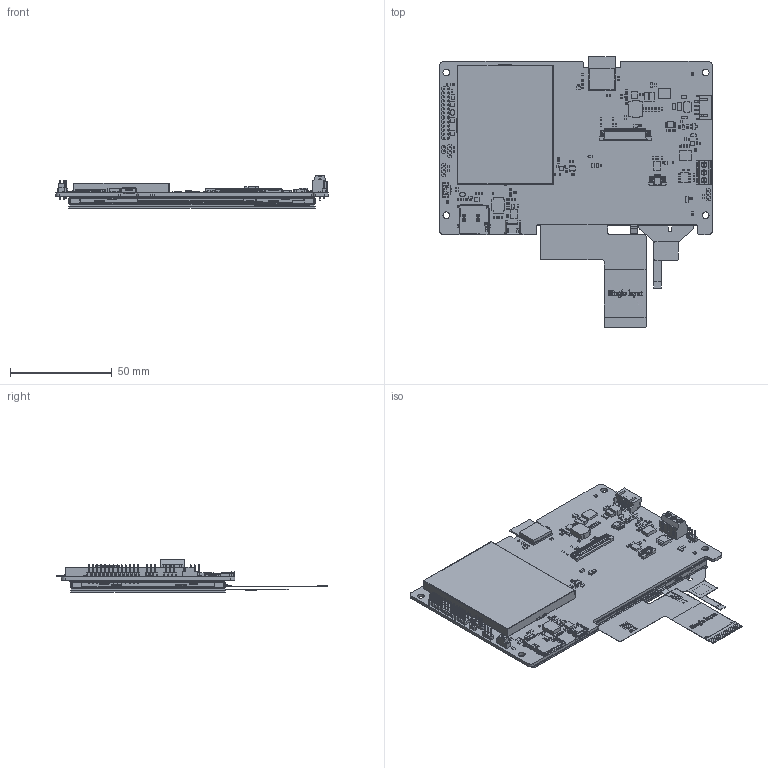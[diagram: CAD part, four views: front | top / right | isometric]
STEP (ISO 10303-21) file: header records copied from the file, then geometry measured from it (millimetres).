
FILE_DESCRIPTION((''),'2;1');
FILE_NAME('00_FTC-05W_ASM','2025-10-14T19:16:32',('Jimmy_Tseng'),(''),'CREO PARAMETRIC BY PTC INC, 2024273','CREO PARAMETRIC BY PTC INC, 2024273','');
FILE_SCHEMA(('CONFIG_CONTROL_DESIGN'));
Products named in the file (48): ESP32-C3-MINI-1; E199TT00457R; E199TT00456R; 0_JD-WV050WB002_3D_ASM; FTC-05WN_M; E1662411202H; E1673206138R; E1911105A18048000H; E1673240134R; E14S3674500H; E121220222BH; A-R1206; E1213102200H; E121220102EH; E1305509442H; E1300031640H; A-C0603; A-C1206; E1315090810H; E14S3506900H; E14S3800302H; E14S3836800H; E1301055140R; A-C0805; E14S3352600H; A-R0603; E1060700002H; E1213009004002H; E1305422040H; E14S4348700H; E1213103004H; E1304000041H; E1311390611H; E1305046440H; E14S4323200H; A-R0402; A-C0402; E195ETCAXA0001R; E1613210000R; E1613310000R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
Assembly tree (198 placements, depth 3):
  00_FTC-05W_ASM
    ESP32-C3-MINI-1
    E199TT00457R  x2
    E199TT00456R  x2
    0_JD-WV050WB002_3D_ASM
    FTC-05WN_M_ASM
      FTC-05WN_M
      E1662411202H
      E1673206138R
      E1911105A18048000H
      E1673240134R
      E14S3674500H
      E121220222BH
      A-R1206
      E1213102200H  x3
      E121220102EH
      E1305509442H
      E1300031640H
      A-C0603  x10
      A-C1206  x3
      E1315090810H
      E14S3506900H
      E14S3800302H
      E14S3836800H
      E1301055140R
      A-C0805  x3
      E14S3352600H
      A-R0603  x2
      E1060700002H
      E1213009004002H
      E1305422040H  x2
      E14S4348700H
      E1213103004H  x4
      E1304000041H
      E1311390611H
      E1305046440H  x7
      E14S4323200H
      A-R0402  x71
      A-C0402  x49
      E195ETCAXA0001R  x4
      E1613210000R
      E1613310000R  x3
      E16L2303400R
      E1660210202H
      E16D3510300H
      E1694092100H
      E1613D20000R
    FTC-05WN_EMI-COVER
Bounding box: 133.7 x 132.85 x 16.03 mm (x, y, z)
Volume: 51259.3 mm3; surface area: 116536.6 mm2
Topology: 198 solids, 201 shells, 10024 faces, 29208 edges, 19257 vertices
Faces by surface type: plane 7686, cylinder 2188, bspline 55, cone 46, extrusion 22, torus 19, sphere 6, revolution 2
Entity records: 301241 total; most frequent: CARTESIAN_POINT 60803, ORIENTED_EDGE 52096, DIRECTION 47997, EDGE_CURVE 26058, VECTOR 20773, LINE 20751, VERTEX_POINT 17221, AXIS2_PLACEMENT_3D 13611
